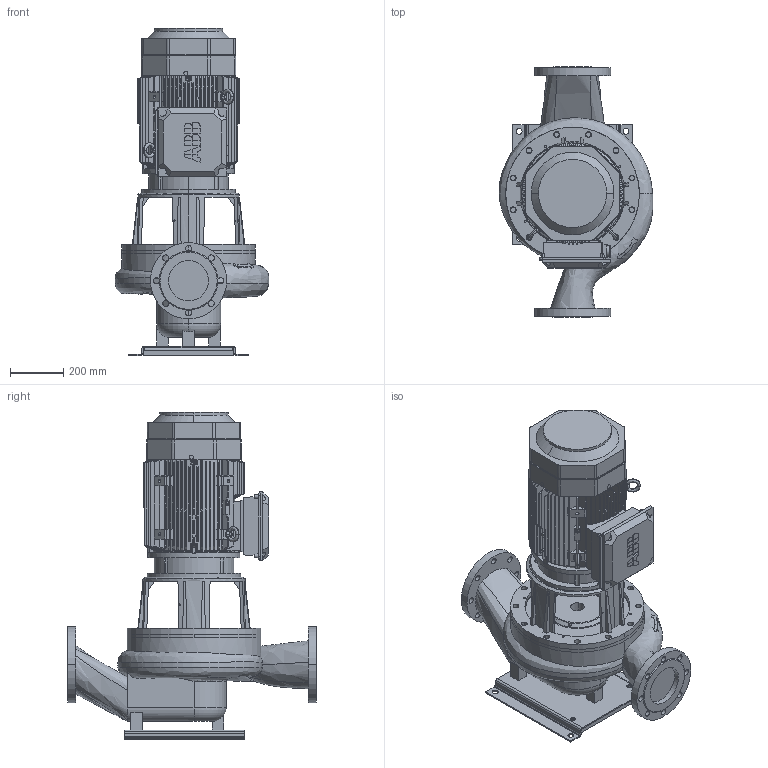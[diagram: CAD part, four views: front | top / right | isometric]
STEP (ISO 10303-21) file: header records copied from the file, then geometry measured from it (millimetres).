
FILE_DESCRIPTION(('STEP AP214'),'1');
FILE_NAME('export.stp','2018-06-06T11:31:41',(' '),(' '),'Spatial InterOp 3D',' ',' ');
FILE_SCHEMA(('AUTOMOTIVE_DESIGN { 1 0 10303 214 1 1 1 1 }'));
Length unit declared in the file: millimetre
Products named in the file (19): W_L150S4SD220-IEC; V_TLL125SAL1250; P100935; IEC-180; 3GZV311000-999999-324000-324001_; 3GZV183002-193006-183002-183999_; -simplified-simplified_parts_Sta; -simplified-simplified_parts_M31; -simplified-simplified_parts_Fan; -simplified-simplified_parts_Ter; 3GZV244000-310999-294000-299999_; Implementation-STANDARD_PARTS_Li; W_L_150S_pump_new; P100464; P100462; P101191
Assembly tree (20 placements, depth 3):
  W_L150S4SD220-IEC
    V_TLL125SAL1250
    P100935
    IEC-180
      3GZV311000-999999-324000-324001_
      3GZV183002-193006-183002-183999_
      -simplified-simplified_parts_Sta
      -simplified-simplified_parts_M31
      -simplified-simplified_parts_Fan
      -simplified-simplified_parts_Ter
      -simplified-simplified_parts_Ter
      3GZV244000-310999-294000-299999_
      3GZV244000-310999-294000-299999_
      3GZV244000-310999-294000-299999_
      Implementation-STANDARD_PARTS_Li  x2
    W_L_150S_pump_new
    P100464
      P100462
      P101191  x2
Bounding box: 576.06 x 935 x 1223.51 mm (x, y, z)
Volume: 121322950.7 mm3; surface area: 6266957.2 mm2
Topology: 13 solids, 143 shells, 1701 faces, 4839 edges, 3283 vertices
Faces by surface type: bspline 1264, cylinder 221, plane 168, cone 40, torus 8
Entity records: 86143 total; most frequent: CARTESIAN_POINT 29377, ORIENTED_EDGE 8731, EDGE_CURVE 4611, STYLED_ITEM 4343, PRESENTATION_STYLE_ASSIGNMENT 4343, COLOUR_RGB 4343, VERTEX_POINT 3128, CURVE_STYLE 2845
